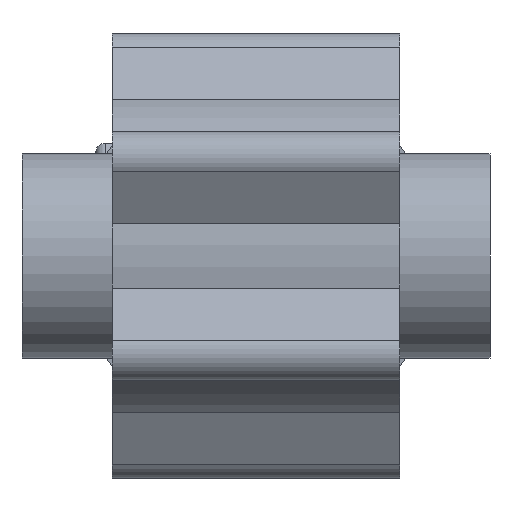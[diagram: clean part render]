
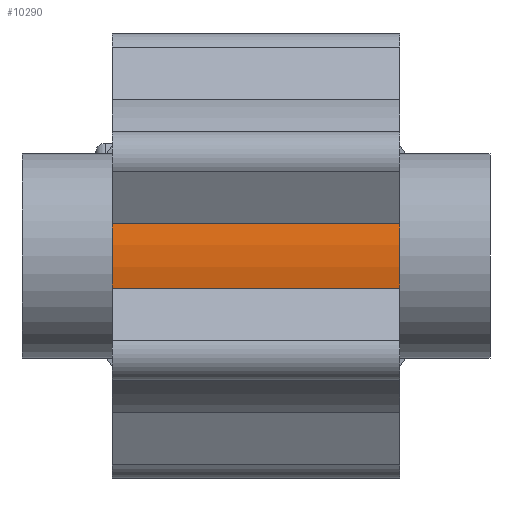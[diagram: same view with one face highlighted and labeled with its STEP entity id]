
A CAD part, front view. The second image highlights one B-rep face of the part: STEP entity #10290.
In plain terms, the highlighted cylindrical face has radius 86 mm (diameter 172 mm), a partial arc.
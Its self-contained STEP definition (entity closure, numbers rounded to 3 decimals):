
#100=CARTESIAN_POINT('',(84.375,14.,
16.641));
#110=VERTEX_POINT('',#100);
#160=CARTESIAN_POINT('',(84.375,14.,16.641));
#170=DIRECTION('',(0.,-1.,0.));
#180=VECTOR('',#170,1.);
#190=LINE('',#160,#180);
#200=CARTESIAN_POINT('',(84.375,-135.5,16.641));
#210=VERTEX_POINT('',#200);
#220=EDGE_CURVE('',#110,#210,#190,.T.);
#7860=CARTESIAN_POINT('',(0.,-135.5,0.));
#7870=DIRECTION('',(0.,-1.,0.));
#7880=DIRECTION('',(0.,0.,-1.));
#7890=AXIS2_PLACEMENT_3D('',#7860,#7870,#7880);
#7900=CIRCLE('',#7890,86.);
#7910=CARTESIAN_POINT('',(84.375,-135.5,-16.641));
#7920=VERTEX_POINT('',#7910);
#7930=EDGE_CURVE('',#7920,#210,#7900,.T.);
#10050=CARTESIAN_POINT('',(0.,14.,0.));
#10060=DIRECTION('',(0.,-1.,0.));
#10070=DIRECTION('',(0.,0.,-1.));
#10080=AXIS2_PLACEMENT_3D('',#10050,#10060,#10070);
#10090=CYLINDRICAL_SURFACE('',#10080,86.);
#10100=ORIENTED_EDGE('',*,*,#7930,.F.);
#10110=ORIENTED_EDGE('',*,*,#220,.T.);
#10120=CARTESIAN_POINT('',(0.,14.,0.));
#10130=DIRECTION('',(0.,-1.,0.));
#10140=DIRECTION('',(0.,0.,-1.));
#10150=AXIS2_PLACEMENT_3D('',#10120,#10130,#10140);
#10160=CIRCLE('',#10150,86.);
#10170=CARTESIAN_POINT('',(84.375,14.,
-16.641));
#10180=VERTEX_POINT('',#10170);
#10190=EDGE_CURVE('',#10180,#110,#10160,.T.);
#10200=ORIENTED_EDGE('',*,*,#10190,.T.);
#10210=CARTESIAN_POINT('',(84.375,-135.5,-16.641));
#10220=DIRECTION('',(0.,1.,0.));
#10230=VECTOR('',#10220,1.);
#10240=LINE('',#10210,#10230);
#10250=EDGE_CURVE('',#7920,#10180,#10240,.T.);
#10260=ORIENTED_EDGE('',*,*,#10250,.T.);
#10270=EDGE_LOOP('',(#10260,#10200,#10110,#10100));
#10280=FACE_OUTER_BOUND('',#10270,.T.);
#10290=ADVANCED_FACE('',(#10280),#10090,.T.);
